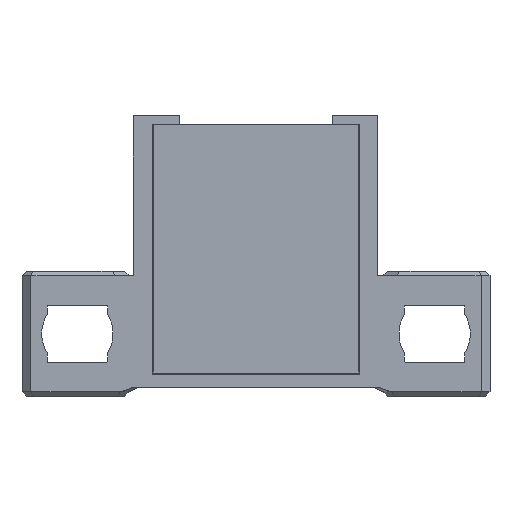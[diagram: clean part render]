
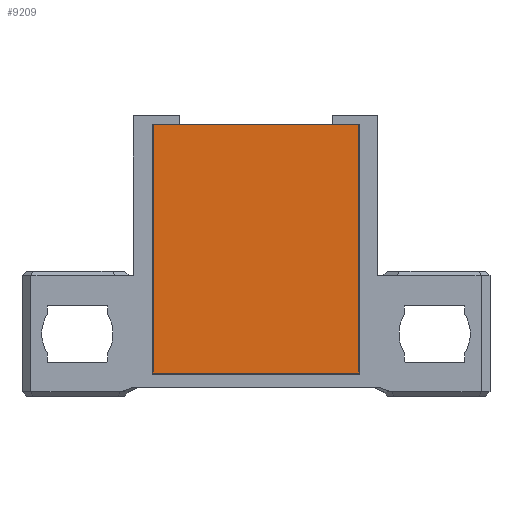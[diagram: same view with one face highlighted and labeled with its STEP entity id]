
A CAD part, front view. The second image highlights one B-rep face of the part: STEP entity #9209.
In plain terms, the highlighted planar face has unit normal (0, -1, 0) as drawn and (0, 1, 0) by its records, which use the part's own axes.
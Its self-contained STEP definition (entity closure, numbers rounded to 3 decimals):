
#589 = EDGE_LOOP ( 'NONE', ( #8834, #3514, #3760, #10946 ) ) ;
#1677 = CARTESIAN_POINT ( 'NONE',  ( -5.75, 0.9, 6.45 ) ) ;
#1851 = CARTESIAN_POINT ( 'NONE',  ( 5.75, 0.9, -7.45 ) ) ;
#2587 = DIRECTION ( 'NONE',  ( 0., -1., 0. ) ) ;
#2710 = AXIS2_PLACEMENT_3D ( 'NONE', #12653, #2587, #10454 ) ;
#3269 = VECTOR ( 'NONE', #14359, 1000. ) ;
#3289 = EDGE_CURVE ( 'NONE', #11645, #4376, #5038, .T. ) ;
#3514 = ORIENTED_EDGE ( 'NONE', *, *, #3833, .T. ) ;
#3760 = ORIENTED_EDGE ( 'NONE', *, *, #12411, .T. ) ;
#3800 = VECTOR ( 'NONE', #8544, 1000. ) ;
#3833 = EDGE_CURVE ( 'NONE', #5778, #12799, #5384, .T. ) ;
#4376 = VERTEX_POINT ( 'NONE', #1677 ) ;
#5038 = LINE ( 'NONE', #6430, #5999 ) ;
#5238 = LINE ( 'NONE', #10695, #3800 ) ;
#5384 = LINE ( 'NONE', #12084, #3269 ) ;
#5778 = VERTEX_POINT ( 'NONE', #11589 ) ;
#5966 = PLANE ( 'NONE',  #2710 ) ;
#5999 = VECTOR ( 'NONE', #8706, 1000. ) ;
#6430 = CARTESIAN_POINT ( 'NONE',  ( -5.75, 0.9, -7.5 ) ) ;
#7749 = EDGE_CURVE ( 'NONE', #5778, #4376, #13142, .T. ) ;
#8544 = DIRECTION ( 'NONE',  ( -1., 0., 0. ) ) ;
#8706 = DIRECTION ( 'NONE',  ( 0., 0., 1. ) ) ;
#8834 = ORIENTED_EDGE ( 'NONE', *, *, #7749, .F. ) ;
#9209 = ADVANCED_FACE ( 'NONE', ( #11347 ), #5966, .F. ) ;
#9766 = DIRECTION ( 'NONE',  ( -1., 0., 0. ) ) ;
#10233 = VECTOR ( 'NONE', #9766, 1000. ) ;
#10454 = DIRECTION ( 'NONE',  ( 0., 0., -1. ) ) ;
#10695 = CARTESIAN_POINT ( 'NONE',  ( 5.8, 0.9, -7.45 ) ) ;
#10946 = ORIENTED_EDGE ( 'NONE', *, *, #3289, .T. ) ;
#11347 = FACE_OUTER_BOUND ( 'NONE', #589, .T. ) ;
#11589 = CARTESIAN_POINT ( 'NONE',  ( 5.75, 0.9, 6.45 ) ) ;
#11645 = VERTEX_POINT ( 'NONE', #13126 ) ;
#11836 = CARTESIAN_POINT ( 'NONE',  ( 5.8, 0.9, 6.45 ) ) ;
#12084 = CARTESIAN_POINT ( 'NONE',  ( 5.75, 0.9, -7.5 ) ) ;
#12411 = EDGE_CURVE ( 'NONE', #12799, #11645, #5238, .T. ) ;
#12653 = CARTESIAN_POINT ( 'NONE',  ( 0., 0.9, 0. ) ) ;
#12799 = VERTEX_POINT ( 'NONE', #1851 ) ;
#13126 = CARTESIAN_POINT ( 'NONE',  ( -5.75, 0.9, -7.45 ) ) ;
#13142 = LINE ( 'NONE', #11836, #10233 ) ;
#14359 = DIRECTION ( 'NONE',  ( 0., 0., -1. ) ) ;
